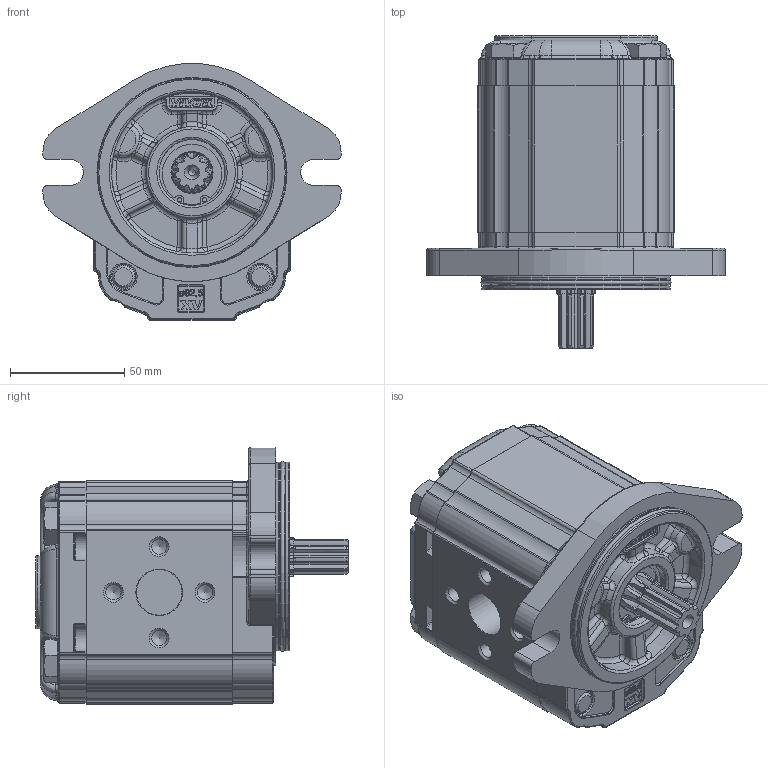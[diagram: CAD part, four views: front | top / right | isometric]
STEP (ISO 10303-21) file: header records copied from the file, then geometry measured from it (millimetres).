
FILE_DESCRIPTION(/* description */ ('Unknown'),/* implementation_level */ '2;1');
FILE_NAME(/* name */ 'X2M4931IPPE',/* time_stamp */ '2021-04-26T10:28:37+02:00',/* author */ ('Unknown'),/* organization */ ('Unknown'),/* preprocessor_version */ 'ST-DEVELOPER v16.7',/* originating_system */ 'Solid Edge',/* authorisation */ 'Unknown');
FILE_SCHEMA (('AUTOMOTIVE_DESIGN {1 0 10303 214 3 1 1}'));
Products named in the file (5): X2M4931IPPE; X2M31; 2I; X2PPH64; XM219-E
Assembly tree (4 placements, depth 2):
  X2M4931IPPE
    X2M31
    2I
    X2PPH64
    XM219-E
Bounding box: 130.38 x 136.7 x 112.3 mm (x, y, z)
Volume: 768603 mm3; surface area: 116251.5 mm2
Topology: 4 solids, 5 shells, 1576 faces, 3999 edges, 2497 vertices
Faces by surface type: plane 601, cylinder 442, bspline 210, torus 207, cone 90, sphere 26
Full cylindrical faces by diameter (mm): 2 x2, 6.647 x8, 11 x2, 11.445 x1, 11.5 x4, 16 x4, 17.42 x1, 18 x1, 20 x2, 20.595 x1, 23.332 x1, 25.834 x1, 28.5 x1, 28.56 x1, 28.57 x1, 28.8 x1, 30.4 x1, 79.6 x2, 82.5 x2
Entity records: 59622 total; most frequent: CARTESIAN_POINT 13001, ORIENTED_EDGE 7680, DIRECTION 7406, EDGE_CURVE 3840, AXIS2_PLACEMENT_3D 2748, VERTEX_POINT 2443, LINE 1910, VECTOR 1910
